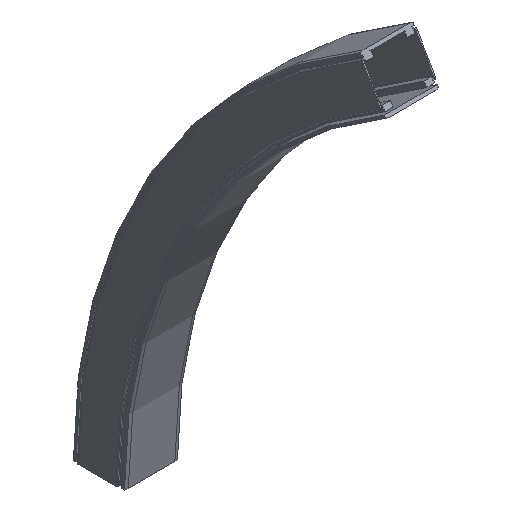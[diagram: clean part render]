
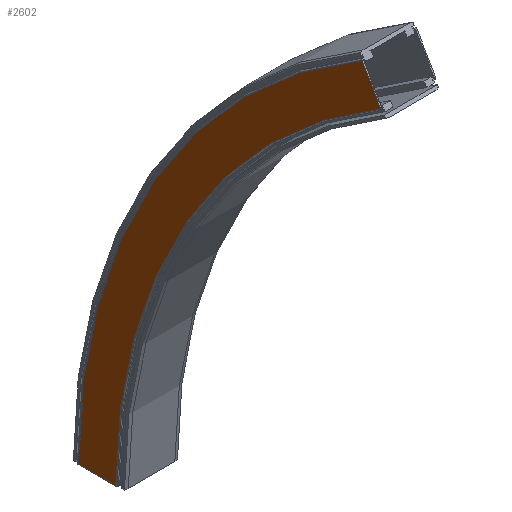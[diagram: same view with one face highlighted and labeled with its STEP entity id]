
A CAD part, isometric view. The second image highlights one B-rep face of the part: STEP entity #2602.
In plain terms, the highlighted planar face has unit normal (-1, 0, 0).
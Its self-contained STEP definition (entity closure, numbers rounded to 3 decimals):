
#2542=CARTESIAN_POINT('',(-43.0,-413.25,719.234));
#2543=VERTEX_POINT('',#2542);
#2551=CARTESIAN_POINT('',(-43.0,2.,0.0));
#2552=VERTEX_POINT('',#2551);
#2553=CARTESIAN_POINT('',(-43.0,-828.5,0.));
#2554=DIRECTION('',(1.0,0.0,0.0));
#2555=DIRECTION('',(0.0,1.0,0.0));
#2556=AXIS2_PLACEMENT_3D('',#2553,#2554,#2555);
#2557=CIRCLE('',#2556,830.5);
#2558=EDGE_CURVE('',#2552,#2543,#2557,.T.);
#2571=CARTESIAN_POINT('',(-43.0,31.5,0.0));
#2572=DIRECTION('',(-1.0,0.0,0.0));
#2573=DIRECTION('',(0.0,0.0,1.0));
#2574=AXIS2_PLACEMENT_3D('',#2571,#2572,#2573);
#2575=PLANE('',#2574);
#2576=CARTESIAN_POINT('',(-43.0,-383.75,770.33));
#2577=VERTEX_POINT('',#2576);
#2578=CARTESIAN_POINT('',(-43.0,-413.25,719.234));
#2579=DIRECTION('',(0.0,0.5,0.866));
#2580=VECTOR('',#2579,59.);
#2581=LINE('',#2578,#2580);
#2582=EDGE_CURVE('',#2543,#2577,#2581,.T.);
#2583=ORIENTED_EDGE('',*,*,#2582,.T.);
#2584=CARTESIAN_POINT('',(-43.0,61.0,0.0));
#2585=VERTEX_POINT('',#2584);
#2586=CARTESIAN_POINT('',(-43.0,-828.5,0.));
#2587=DIRECTION('',(1.0,0.0,0.0));
#2588=DIRECTION('',(0.0,1.0,0.0));
#2589=AXIS2_PLACEMENT_3D('',#2586,#2587,#2588);
#2590=CIRCLE('',#2589,889.5);
#2591=EDGE_CURVE('',#2585,#2577,#2590,.T.);
#2592=ORIENTED_EDGE('',*,*,#2591,.F.);
#2593=CARTESIAN_POINT('',(-43.0,61.0,0.0));
#2594=DIRECTION('',(0.0,-1.0,0.0));
#2595=VECTOR('',#2594,59.0);
#2596=LINE('',#2593,#2595);
#2597=EDGE_CURVE('',#2585,#2552,#2596,.T.);
#2598=ORIENTED_EDGE('',*,*,#2597,.T.);
#2599=ORIENTED_EDGE('',*,*,#2558,.T.);
#2600=EDGE_LOOP('',(#2583,#2592,#2598,#2599));
#2601=FACE_OUTER_BOUND('',#2600,.T.);
#2602=ADVANCED_FACE('',(#2601),#2575,.T.);
